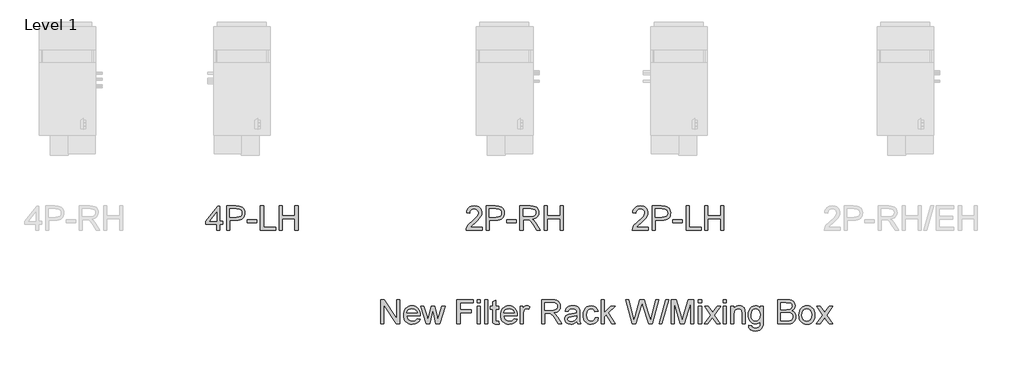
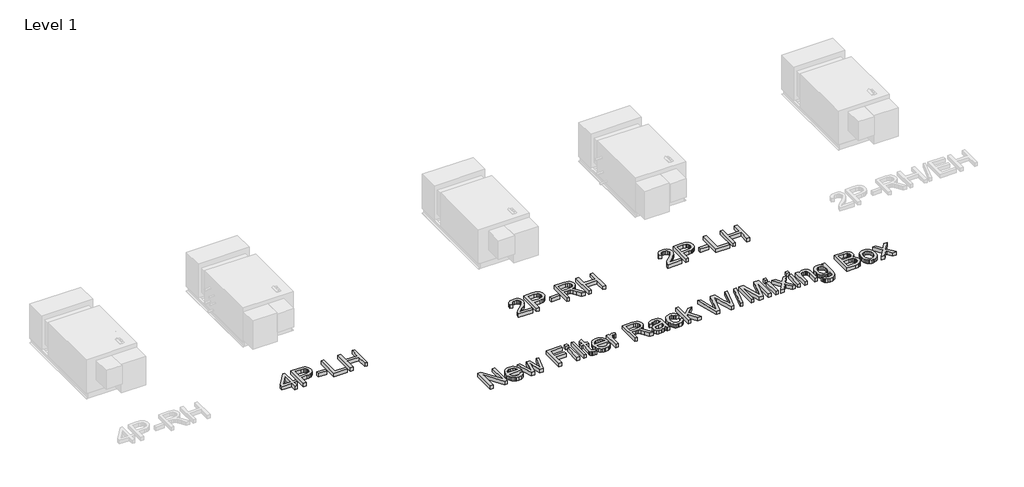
# One storey, part 2 of 3: 4 proxies.
"""IFC4 building model written with IfcOpenShell, lengths in millimetres."""

from ifc_helpers import new_model, si_unit, frame, origin, place, context, project, spatial, polyline, outline, extrude, element, save

model = new_model("IFC4")

# Units and contexts
model_context = context("Model", 3, world=origin())
ifc_project = project(units=[si_unit("LENGTHUNIT", "METRE", prefix="MILLI")], contexts=[model_context])

# Site, building, storey
site = spatial("IfcSite", under=ifc_project)
building = spatial("IfcBuilding", under=site)
storey = spatial("IfcBuildingStorey", under=building, Name="Level 1", Elevation=0.0)

# Proxies
placement = place(None, origin())
element("IfcBuildingElementProxy", 1, Name="24\" Arial", ObjectType="24\" Arial", at=placement, inside=storey, context=model_context, shape_type="SweptSolid", body=[
    extrude(outline(polyline([(-33894.5636613, -12900.1785739), (-33894.5636613, -12938.2494606), (-34094.4358167, -12938.2494606), (-34090.3461707, -12912.0013688), (-34080.9585741, -12891.488076), (-34067.2210813, -12871.5882302), (-34047.3491194, -12850.7589194), (-34019.5581156, -12827.4572316), (-33978.4757622, -12790.9664353), (-33953.8263502, -12764.0305394), (-33941.5016442, -12742.1695224), (-33937.3934089, -12720.903363), (-33941.2692779, -12701.8400357), (-33952.8968852, -12685.9926573), (-33970.7704973, -12675.3131043), (-33993.384381, -12671.7532533), (-34017.132212, -12675.2294525), (-34035.5820924, -12685.6580499), (-34047.4885391, -12702.2211163), (-34051.6060691, -12724.1007226), (-34089.6769559, -12719.3418618), (-34086.4029154, -12699.6883242), (-34080.4473684, -12682.5164581), (-34071.8103148, -12667.8262637), (-34060.4917546, -12655.6177408), (-34046.7519381, -12646.0210146), (-34030.8511155, -12639.1662101), (-33992.5664518, -12633.6823666), (-33972.1623712, -12635.2066892), (-33954.0029486, -12639.779657), (-33938.0881839, -12647.4012701), (-33924.4180773, -12658.0715284), (-33913.4387719, -12671.0003867), (-33905.5964109, -12685.3977997), (-33900.8909943, -12701.2637674), (-33899.3225221, -12718.5982898), (-33901.0141484, -12736.8065093), (-33906.0890274, -12754.6987107), (-33915.0955433, -12772.8976356), (-33928.5820806, -12792.0260255), (-33950.0806062, -12814.8629807), (-33983.1230873, -12844.1876018), (-34026.9194785, -12880.8085231), (-34044.0959919, -12900.1785739), (-33894.5636613, -12900.1785739)])), frame((0.0, 0.0, -529.6157415), z_axis=(0.0, 0.0, 1.0), x_axis=(1.0, 0.0, 0.0)), (0.0, 0.0, 1.0), 50.8),
    extrude(outline(polyline([(-33842.216192, -12938.2494606), (-33842.216192, -12633.6823666), (-33729.3419613, -12633.6823666), (-33683.8353545, -12636.5822974), (-33663.5451333, -12642.0010784), (-33646.8426471, -12650.8217013), (-33633.3932884, -12663.4438361), (-33622.8624499, -12680.2671528), (-33616.058766, -12700.1112307), (-33613.7908714, -12721.7956494), (-33615.322165, -12740.491838), (-33619.9160458, -12757.691588), (-33627.5725138, -12773.3948994), (-33638.291569, -12787.601772), (-33653.0073238, -12799.3780937), (-33672.6538904, -12807.789752), (-33697.2312689, -12812.836747), (-33726.7394593, -12814.5190787), (-33804.1453052, -12814.5190787), (-33804.1453052, -12938.2494606), (-33842.216192, -12938.2494606)]), holes=[polyline([(-33804.1453052, -12776.4481919), (-33724.5087433, -12776.4481919), (-33690.7505741, -12772.9534035), (-33668.4434139, -12762.4690382), (-33656.0071721, -12745.6457215), (-33651.8617582, -12723.134079), (-33654.3062511, -12706.0319228), (-33661.6397301, -12691.6066259), (-33672.9513192, -12680.7504746), (-33687.3301429, -12674.3557554), (-33725.4010297, -12671.7532533), (-33804.1453052, -12671.7532533), (-33804.1453052, -12776.4481919)])]), frame((0.0, 0.0, -529.6157415), z_axis=(0.0, 0.0, 1.0), x_axis=(1.0, 0.0, 0.0)), (0.0, 0.0, 1.0), 50.8),
    extrude(outline(polyline([(-33585.2377063, -12847.8311046), (-33585.2377063, -12809.7602178), (-33466.2661852, -12809.7602178), (-33466.2661852, -12847.8311046), (-33585.2377063, -12847.8311046)])), frame((0.0, 0.0, -529.6157415), z_axis=(0.0, 0.0, 1.0), x_axis=(1.0, 0.0, 0.0)), (0.0, 0.0, 1.0), 50.8),
    extrude(outline(polyline([(-33418.6775768, -12938.2494606), (-33418.6775768, -12633.6823666), (-33380.60669, -12633.6823666), (-33380.60669, -12900.1785739), (-33228.323143, -12900.1785739), (-33228.323143, -12938.2494606), (-33418.6775768, -12938.2494606)])), frame((0.0, 0.0, -529.6157415), z_axis=(0.0, 0.0, 1.0), x_axis=(1.0, 0.0, 0.0)), (0.0, 0.0, 1.0), 50.8),
    extrude(outline(polyline([(-33185.4933954, -12938.2494606), (-33185.4933954, -12633.6823666), (-33147.4225086, -12633.6823666), (-33147.4225086, -12757.4127485), (-32985.6212399, -12757.4127485), (-32985.6212399, -12633.6823666), (-32947.5503531, -12633.6823666), (-32947.5503531, -12938.2494606), (-32985.6212399, -12938.2494606), (-32985.6212399, -12795.4836353), (-33147.4225086, -12795.4836353), (-33147.4225086, -12938.2494606), (-33185.4933954, -12938.2494606)])), frame((0.0, 0.0, -529.6157415), z_axis=(0.0, 0.0, 1.0), x_axis=(1.0, 0.0, 0.0)), (0.0, 0.0, 1.0), 50.8),
])
element("IfcBuildingElementProxy", 2, Name="24\" Arial", ObjectType="24\" Arial", at=placement, inside=storey, context=model_context, shape_type="SweptSolid", body=[
    extrude(outline(polyline([(-35980.5537824, -12900.1785739), (-35980.5537824, -12938.2494606), (-36180.4259379, -12938.2494606), (-36176.3362918, -12912.0013688), (-36166.9486952, -12891.488076), (-36153.2112024, -12871.5882302), (-36133.3392405, -12850.7589194), (-36105.5482368, -12827.4572316), (-36064.4658834, -12790.9664353), (-36039.8164713, -12764.0305394), (-36027.4917653, -12742.1695224), (-36023.38353, -12720.903363), (-36027.2593991, -12701.8400357), (-36038.8870063, -12685.9926573), (-36056.7606185, -12675.3131043), (-36079.3745021, -12671.7532533), (-36103.1223331, -12675.2294525), (-36121.5722135, -12685.6580499), (-36133.4786603, -12702.2211163), (-36137.5961903, -12724.1007226), (-36175.667077, -12719.3418618), (-36172.3930365, -12699.6883242), (-36166.4374895, -12682.5164581), (-36157.8004359, -12667.8262637), (-36146.4818758, -12655.6177408), (-36132.7420593, -12646.0210146), (-36116.8412366, -12639.1662101), (-36078.5565729, -12633.6823666), (-36058.1524923, -12635.2066892), (-36039.9930697, -12639.779657), (-36024.0783051, -12647.4012701), (-36010.4081985, -12658.0715284), (-35999.4288931, -12671.0003867), (-35991.586532, -12685.3977997), (-35986.8811154, -12701.2637674), (-35985.3126432, -12718.5982898), (-35987.0042695, -12736.8065093), (-35992.0791485, -12754.6987107), (-36001.0856644, -12772.8976356), (-36014.5722017, -12792.0260255), (-36036.0707274, -12814.8629807), (-36069.1132084, -12844.1876018), (-36112.9095996, -12880.8085231), (-36130.086113, -12900.1785739), (-35980.5537824, -12900.1785739)])), frame((0.0, 0.0, -529.6157415), z_axis=(0.0, 0.0, 1.0), x_axis=(1.0, 0.0, 0.0)), (0.0, 0.0, 1.0), 50.8),
    extrude(outline(polyline([(-35928.2063131, -12938.2494606), (-35928.2063131, -12633.6823666), (-35815.3320824, -12633.6823666), (-35769.8254756, -12636.5822974), (-35749.5352545, -12642.0010784), (-35732.8327683, -12650.8217013), (-35719.3834096, -12663.4438361), (-35708.852571, -12680.2671528), (-35702.0488872, -12700.1112307), (-35699.7809925, -12721.7956494), (-35701.3122861, -12740.491838), (-35705.906167, -12757.691588), (-35713.562635, -12773.3948994), (-35724.2816902, -12787.601772), (-35738.9974449, -12799.3780937), (-35758.6440115, -12807.789752), (-35783.22139, -12812.836747), (-35812.7295804, -12814.5190787), (-35890.1354263, -12814.5190787), (-35890.1354263, -12938.2494606), (-35928.2063131, -12938.2494606)]), holes=[polyline([(-35890.1354263, -12776.4481919), (-35810.4988644, -12776.4481919), (-35776.7406953, -12772.9534035), (-35754.4335351, -12762.4690382), (-35741.9972932, -12745.6457215), (-35737.8518793, -12723.134079), (-35740.2963723, -12706.0319228), (-35747.6298512, -12691.6066259), (-35758.9414404, -12680.7504746), (-35773.320264, -12674.3557554), (-35811.3911508, -12671.7532533), (-35890.1354263, -12671.7532533), (-35890.1354263, -12776.4481919)])]), frame((0.0, 0.0, -529.6157415), z_axis=(0.0, 0.0, 1.0), x_axis=(1.0, 0.0, 0.0)), (0.0, 0.0, 1.0), 50.8),
    extrude(outline(polyline([(-35671.2278275, -12847.8311046), (-35671.2278275, -12809.7602178), (-35552.2563064, -12809.7602178), (-35552.2563064, -12847.8311046), (-35671.2278275, -12847.8311046)])), frame((0.0, 0.0, -529.6157415), z_axis=(0.0, 0.0, 1.0), x_axis=(1.0, 0.0, 0.0)), (0.0, 0.0, 1.0), 50.8),
    extrude(outline(polyline([(-35504.6676979, -12938.2494606), (-35504.6676979, -12633.6823666), (-35373.4272387, -12633.6823666), (-35338.1540416, -12635.7364842), (-35312.4915127, -12641.8988372), (-35293.7349088, -12653.275489), (-35279.1794868, -12670.9725027), (-35269.8383634, -12692.9171716), (-35266.7246557, -12717.0367886), (-35271.8831865, -12747.039919), (-35287.3587789, -12771.9124027), (-35299.0816563, -12782.0482186), (-35313.6161654, -12790.1485061), (-35351.1200785, -12800.2424961), (-35329.4821331, -12816.5267231), (-35298.6238948, -12855.7129679), (-35247.8379267, -12938.2494606), (-35292.0804611, -12938.2494606), (-35331.7128491, -12875.1201972), (-35360.3403713, -12833.3314504), (-35380.4539941, -12813.5896137), (-35398.5599725, -12806.3397866), (-35420.6440611, -12805.001357), (-35466.5968111, -12805.001357), (-35466.5968111, -12938.2494606), (-35504.6676979, -12938.2494606)]), holes=[polyline([(-35466.5968111, -12766.9304702), (-35381.3834591, -12766.9304702), (-35356.9106455, -12765.582746), (-35337.9216753, -12761.5395732), (-35323.6265035, -12754.531407), (-35313.2350847, -12744.2887026), (-35306.905428, -12731.898934), (-35304.7955424, -12718.4495754), (-35308.8201259, -12699.8788645), (-35320.8938764, -12684.9144779), (-35341.6674193, -12675.0435595), (-35371.7913803, -12671.7532533), (-35466.5968111, -12671.7532533), (-35466.5968111, -12766.9304702)])]), frame((0.0, 0.0, -529.6157415), z_axis=(0.0, 0.0, 1.0), x_axis=(1.0, 0.0, 0.0)), (0.0, 0.0, 1.0), 50.8),
    extrude(outline(polyline([(-35200.1006038, -12938.2494606), (-35200.1006038, -12633.6823666), (-35162.0297171, -12633.6823666), (-35162.0297171, -12757.4127485), (-35000.2284484, -12757.4127485), (-35000.2284484, -12633.6823666), (-34962.1575616, -12633.6823666), (-34962.1575616, -12938.2494606), (-35000.2284484, -12938.2494606), (-35000.2284484, -12795.4836353), (-35162.0297171, -12795.4836353), (-35162.0297171, -12938.2494606), (-35200.1006038, -12938.2494606)])), frame((0.0, 0.0, -529.6157415), z_axis=(0.0, 0.0, 1.0), x_axis=(1.0, 0.0, 0.0)), (0.0, 0.0, 1.0), 50.8),
])
element("IfcBuildingElementProxy", 3, Name="24\" Arial", ObjectType="24\" Arial", at=placement, inside=storey, context=model_context, shape_type="SweptSolid", body=[
    extrude(outline(polyline([(-39309.3056134, -12938.2494606), (-39309.3056134, -12866.866548), (-39447.3125779, -12866.866548), (-39447.3125779, -12828.7956612), (-39299.7878917, -12638.4412274), (-39271.2347266, -12638.4412274), (-39271.2347266, -12828.7956612), (-39233.1638398, -12828.7956612), (-39233.1638398, -12866.866548), (-39271.2347266, -12866.866548), (-39271.2347266, -12938.2494606), (-39309.3056134, -12938.2494606)]), holes=[polyline([(-39309.3056134, -12828.7956612), (-39309.3056134, -12711.1625697), (-39400.4675414, -12828.7956612), (-39309.3056134, -12828.7956612)])]), frame((0.0, 0.0, -501.65), z_axis=(0.0, 0.0, 1.0), x_axis=(1.0, 0.0, 0.0)), (0.0, 0.0, 1.0), 50.8),
    extrude(outline(polyline([(-39185.5752314, -12938.2494606), (-39185.5752314, -12633.6823666), (-39072.7010007, -12633.6823666), (-39027.1943939, -12636.5822974), (-39006.9041728, -12642.0010784), (-38990.2016866, -12650.8217013), (-38976.7523279, -12663.4438361), (-38966.2214893, -12680.2671528), (-38959.4178055, -12700.1112307), (-38957.1499108, -12721.7956494), (-38958.6812044, -12740.491838), (-38963.2750853, -12757.691588), (-38970.9315533, -12773.3948994), (-38981.6506085, -12787.601772), (-38996.3663632, -12799.3780937), (-39016.0129298, -12807.789752), (-39040.5903083, -12812.836747), (-39070.0984987, -12814.5190787), (-39147.5043446, -12814.5190787), (-39147.5043446, -12938.2494606), (-39185.5752314, -12938.2494606)]), holes=[polyline([(-39147.5043446, -12776.4481919), (-39067.8677827, -12776.4481919), (-39034.1096136, -12772.9534035), (-39011.8024534, -12762.4690382), (-38999.3662115, -12745.6457215), (-38995.2207976, -12723.134079), (-38997.6652906, -12706.0319228), (-39004.9987695, -12691.6066259), (-39016.3103587, -12680.7504746), (-39030.6891823, -12674.3557554), (-39068.7600691, -12671.7532533), (-39147.5043446, -12671.7532533), (-39147.5043446, -12776.4481919)])]), frame((0.0, 0.0, -501.65), z_axis=(0.0, 0.0, 1.0), x_axis=(1.0, 0.0, 0.0)), (0.0, 0.0, 1.0), 50.8),
    extrude(outline(polyline([(-38928.5967458, -12847.8311046), (-38928.5967458, -12809.7602178), (-38809.6252247, -12809.7602178), (-38809.6252247, -12847.8311046), (-38928.5967458, -12847.8311046)])), frame((0.0, 0.0, -501.65), z_axis=(0.0, 0.0, 1.0), x_axis=(1.0, 0.0, 0.0)), (0.0, 0.0, 1.0), 50.8),
    extrude(outline(polyline([(-38762.0366162, -12938.2494606), (-38762.0366162, -12633.6823666), (-38723.9657294, -12633.6823666), (-38723.9657294, -12900.1785739), (-38571.6821824, -12900.1785739), (-38571.6821824, -12938.2494606), (-38762.0366162, -12938.2494606)])), frame((0.0, 0.0, -501.65), z_axis=(0.0, 0.0, 1.0), x_axis=(1.0, 0.0, 0.0)), (0.0, 0.0, 1.0), 50.8),
    extrude(outline(polyline([(-38528.8524348, -12938.2494606), (-38528.8524348, -12633.6823666), (-38490.7815481, -12633.6823666), (-38490.7815481, -12757.4127485), (-38328.9802793, -12757.4127485), (-38328.9802793, -12633.6823666), (-38290.9093926, -12633.6823666), (-38290.9093926, -12938.2494606), (-38328.9802793, -12938.2494606), (-38328.9802793, -12795.4836353), (-38490.7815481, -12795.4836353), (-38490.7815481, -12938.2494606), (-38528.8524348, -12938.2494606)])), frame((0.0, 0.0, -501.65), z_axis=(0.0, 0.0, 1.0), x_axis=(1.0, 0.0, 0.0)), (0.0, 0.0, 1.0), 50.8),
])
element("IfcBuildingElementProxy", 4, Name="24\" Arial", ObjectType="24\" Arial", at=placement, inside=storey, context=model_context, shape_type="SweptSolid", body=[
    extrude(outline(polyline([(-37251.8204583, -14115.8222873), (-37251.8204583, -13811.2551933), (-37211.0727123, -13811.2551933), (-37051.9483028, -14052.5443095), (-37051.9483028, -13811.2551933), (-37013.877416, -13811.2551933), (-37013.877416, -14115.8222873), (-37054.625162, -14115.8222873), (-37213.7495715, -13874.4588139), (-37213.7495715, -14115.8222873), (-37251.8204583, -14115.8222873)])), frame((0.0, 0.0, -501.65), z_axis=(0.0, 0.0, 1.0), x_axis=(1.0, 0.0, 0.0)), (0.0, 0.0, 1.0), 50.8),
    extrude(outline(polyline([(-36795.4159604, -14049.1982355), (-36758.0886456, -14053.9570964), (-36771.5380043, -14082.0827075), (-36792.9993514, -14103.107206), (-36821.989365, -14116.2126626), (-36858.0247234, -14120.5811482), (-36881.6470766, -14118.6966579), (-36902.6948117, -14113.043187), (-36921.1679287, -14103.6207354), (-36937.0664277, -14090.4293033), (-36949.8512189, -14073.8360292), (-36958.9832126, -14054.2080519), (-36964.4624088, -14031.5453713), (-36966.2888076, -14005.8479875), (-36964.4438195, -13979.2792302), (-36958.9088554, -13955.8613593), (-36949.6839152, -13935.5943748), (-36936.7689989, -13918.4782767), (-36920.9123259, -13904.8802036), (-36902.8621154, -13895.1672943), (-36882.6183675, -13889.3395487), (-36860.1810822, -13887.3969668), (-36838.4664559, -13889.3349013), (-36818.829184, -13895.148705), (-36801.2692663, -13904.8383777), (-36785.7867029, -13918.4039195), (-36773.1483024, -13935.482839), (-36764.1208735, -13955.7126449), (-36758.7044162, -13979.0933372), (-36756.8989304, -14005.6249159), (-36757.122002, -14015.8862096), (-36928.2179208, -14015.8862096), (-36921.6280139, -14044.3836068), (-36906.3197252, -14065.3337481), (-36884.226342, -14078.2161331), (-36857.2811514, -14082.5102614), (-36837.0188142, -14080.5212063), (-36819.9538366, -14074.554041), (-36806.0862187, -14064.2369794), (-36795.4159604, -14049.1982355)]), holes=[polyline([(-36928.2179208, -13977.8153228), (-36794.9698172, -13977.8153228), (-36800.1190533, -13957.7017001), (-36810.2130433, -13943.3135817), (-36832.4086677, -13929.9292856), (-36860.3297966, -13925.4678535), (-36885.9923255, -13929.0277045), (-36907.2120116, -13939.7072575), (-36921.9626213, -13956.3539758), (-36928.2179208, -13977.8153228)])]), frame((0.0, 0.0, -501.65), z_axis=(0.0, 0.0, 1.0), x_axis=(1.0, 0.0, 0.0)), (0.0, 0.0, 1.0), 50.8),
    extrude(outline(polyline([(-36681.7238005, -14115.8222873), (-36749.7606391, -13892.1558276), (-36710.2026084, -13892.1558276), (-36671.6112212, -14022.6527149), (-36660.0858551, -14069.2746797), (-36650.6424906, -14024.3629305), (-36619.9329667, -13892.1558276), (-36574.5750743, -13892.1558276), (-36544.0142648, -14023.9911445), (-36535.6119011, -14064.6645333), (-36523.5660346, -14021.7604285), (-36484.9002903, -13892.1558276), (-36445.1935451, -13892.1558276), (-36513.7508841, -14115.8222873), (-36559.7779914, -14115.8222873), (-36589.0003712, -13984.6561853), (-36597.4770921, -13943.7597249), (-36635.1761929, -14115.8222873), (-36681.7238005, -14115.8222873)])), frame((0.0, 0.0, -501.65), z_axis=(0.0, 0.0, 1.0), x_axis=(1.0, 0.0, 0.0)), (0.0, 0.0, 1.0), 50.8),
    extrude(outline(polyline([(-36295.2894285, -14115.8222873), (-36295.2894285, -13811.2551933), (-36090.6584121, -13811.2551933), (-36090.6584121, -13849.32608), (-36257.2185417, -13849.32608), (-36257.2185417, -13939.7444361), (-36114.4527164, -13939.7444361), (-36114.4527164, -13977.8153228), (-36257.2185417, -13977.8153228), (-36257.2185417, -14115.8222873), (-36295.2894285, -14115.8222873)])), frame((0.0, 0.0, -501.65), z_axis=(0.0, 0.0, 1.0), x_axis=(1.0, 0.0, 0.0)), (0.0, 0.0, 1.0), 50.8),
    extrude(outline(polyline([(-36043.0698037, -13849.32608), (-36043.0698037, -13811.2551933), (-36004.9989169, -13811.2551933), (-36004.9989169, -13849.32608), (-36043.0698037, -13849.32608)])), frame((0.0, 0.0, -501.65), z_axis=(0.0, 0.0, 1.0), x_axis=(1.0, 0.0, 0.0)), (0.0, 0.0, 1.0), 50.8),
    extrude(outline(polyline([(-36043.0698037, -14115.8222873), (-36043.0698037, -13892.1558276), (-36004.9989169, -13892.1558276), (-36004.9989169, -14115.8222873), (-36043.0698037, -14115.8222873)])), frame((0.0, 0.0, -501.65), z_axis=(0.0, 0.0, 1.0), x_axis=(1.0, 0.0, 0.0)), (0.0, 0.0, 1.0), 50.8),
    extrude(outline(polyline([(-35947.8925868, -14115.8222873), (-35947.8925868, -13811.2551933), (-35909.8217, -13811.2551933), (-35909.8217, -14115.8222873), (-35947.8925868, -14115.8222873)])), frame((0.0, 0.0, -501.65), z_axis=(0.0, 0.0, 1.0), x_axis=(1.0, 0.0, 0.0)), (0.0, 0.0, 1.0), 50.8),
    extrude(outline(polyline([(-35771.8147355, -14084.0717626), (-35767.0558747, -14116.9376453), (-35795.5346826, -14120.5811482), (-35813.8079646, -14119.0010577), (-35827.4339217, -14114.2607861), (-35837.0631792, -14106.9551912), (-35843.3463626, -14097.6791304), (-35846.8039724, -14081.7481001), (-35847.9565091, -14054.4775968), (-35847.9565091, -13930.2267144), (-35876.5096741, -13930.2267144), (-35876.5096741, -13892.1558276), (-35847.9565091, -13892.1558276), (-35847.9565091, -13837.8007139), (-35809.8856223, -13815.4191965), (-35809.8856223, -13892.1558276), (-35771.8147355, -13892.1558276), (-35771.8147355, -13930.2267144), (-35809.8856223, -13930.2267144), (-35809.8856223, -14053.3622388), (-35807.8779779, -14072.9925397), (-35801.3717228, -14079.944938), (-35788.3963913, -14082.5102614), (-35771.8147355, -14084.0717626)])), frame((0.0, 0.0, -501.65), z_axis=(0.0, 0.0, 1.0), x_axis=(1.0, 0.0, 0.0)), (0.0, 0.0, 1.0), 50.8),
    extrude(outline(polyline([(-35577.1475841, -14049.1982355), (-35539.8202694, -14053.9570964), (-35553.269628, -14082.0827075), (-35574.7309751, -14103.107206), (-35603.7209887, -14116.2126626), (-35639.7563471, -14120.5811482), (-35663.3787003, -14118.6966579), (-35684.4264354, -14113.043187), (-35702.8995525, -14103.6207354), (-35718.7980514, -14090.4293033), (-35731.5828426, -14073.8360292), (-35740.7148363, -14054.2080519), (-35746.1940326, -14031.5453713), (-35748.0204313, -14005.8479875), (-35746.1754433, -13979.2792302), (-35740.6404791, -13955.8613593), (-35731.4155389, -13935.5943748), (-35718.5006226, -13918.4782767), (-35702.6439496, -13904.8802036), (-35684.5937391, -13895.1672943), (-35664.3499912, -13889.3395487), (-35641.9127059, -13887.3969668), (-35620.1980796, -13889.3349013), (-35600.5608077, -13895.148705), (-35583.00089, -13904.8383777), (-35567.5183266, -13918.4039195), (-35554.8799262, -13935.482839), (-35545.8524973, -13955.7126449), (-35540.4360399, -13979.0933372), (-35538.6305541, -14005.6249159), (-35538.8536257, -14015.8862096), (-35709.9495446, -14015.8862096), (-35703.3596376, -14044.3836068), (-35688.051349, -14065.3337481), (-35665.9579657, -14078.2161331), (-35639.0127751, -14082.5102614), (-35618.7504379, -14080.5212063), (-35601.6854603, -14074.554041), (-35587.8178424, -14064.2369794), (-35577.1475841, -14049.1982355)]), holes=[polyline([(-35709.9495446, -13977.8153228), (-35576.7014409, -13977.8153228), (-35581.8506771, -13957.7017001), (-35591.944667, -13943.3135817), (-35614.1402915, -13929.9292856), (-35642.0614203, -13925.4678535), (-35667.7239492, -13929.0277045), (-35688.9436354, -13939.7072575), (-35703.694245, -13956.3539758), (-35709.9495446, -13977.8153228)])]), frame((0.0, 0.0, -501.65), z_axis=(0.0, 0.0, 1.0), x_axis=(1.0, 0.0, 0.0)), (0.0, 0.0, 1.0), 50.8),
    extrude(outline(polyline([(-35500.5596674, -14115.8222873), (-35500.5596674, -13892.1558276), (-35467.2476415, -13892.1558276), (-35467.2476415, -13925.2447819), (-35454.9415248, -13906.0606242), (-35443.6020516, -13894.7583297), (-35432.2253999, -13889.2373075), (-35419.8077474, -13887.3969668), (-35400.8466612, -13890.3340762), (-35381.5881463, -13899.1454045), (-35394.3032276, -13933.2753596), (-35407.6875237, -13927.4197301), (-35421.0718198, -13925.4678535), (-35432.4391769, -13927.3453729), (-35442.5982294, -13932.9779308), (-35450.8054055, -13941.9379735), (-35456.317133, -13953.797947), (-35460.9458687, -13975.0641064), (-35462.4887806, -13998.263553), (-35462.4887806, -14115.8222873), (-35500.5596674, -14115.8222873)])), frame((0.0, 0.0, -501.65), z_axis=(0.0, 0.0, 1.0), x_axis=(1.0, 0.0, 0.0)), (0.0, 0.0, 1.0), 50.8),
    extrude(outline(polyline([(-35234.0634601, -14115.8222873), (-35234.0634601, -13811.2551933), (-35102.8230008, -13811.2551933), (-35067.5498038, -13813.3093109), (-35041.8872749, -13819.4716639), (-35023.130671, -13830.8483157), (-35008.575249, -13848.5453294), (-34999.2341256, -13870.4899983), (-34996.1204178, -13894.6096153), (-35001.2789486, -13924.6127457), (-35016.754541, -13949.4852294), (-35028.4774185, -13959.6210453), (-35043.0119275, -13967.7213328), (-35080.5158406, -13977.8153228), (-35058.8778952, -13994.0995498), (-35028.0196569, -14033.2857946), (-34977.2336889, -14115.8222873), (-35021.4762233, -14115.8222873), (-35061.1086112, -14052.6930239), (-35089.7361335, -14010.9042772), (-35109.8497563, -13991.1624404), (-35127.9557347, -13983.9126133), (-35150.0398233, -13982.5741837), (-35195.9925733, -13982.5741837), (-35195.9925733, -14115.8222873), (-35234.0634601, -14115.8222873)]), holes=[polyline([(-35195.9925733, -13944.5032969), (-35110.7792213, -13944.5032969), (-35086.3064076, -13943.1555727), (-35067.3174375, -13939.1123999), (-35053.0222657, -13932.1042337), (-35042.6308469, -13921.8615293), (-35036.3011902, -13909.4717607), (-35034.1913046, -13896.0224021), (-35038.2158881, -13877.4516912), (-35050.2896385, -13862.4873046), (-35071.0631815, -13852.6163862), (-35101.1871424, -13849.32608), (-35195.9925733, -13849.32608), (-35195.9925733, -13944.5032969)])]), frame((0.0, 0.0, -501.65), z_axis=(0.0, 0.0, 1.0), x_axis=(1.0, 0.0, 0.0)), (0.0, 0.0, 1.0), 50.8),
    extrude(outline(polyline([(-34791.4894015, -14087.2691223), (-34809.6790317, -14102.8655451), (-34828.4077517, -14113.0710709), (-34848.1031152, -14118.7036289), (-34869.1926762, -14120.5811482), (-34901.0082635, -14116.0639482), (-34924.477255, -14102.5123484), (-34938.9490251, -14081.9339931), (-34943.7729485, -14056.3365268), (-34941.9511971, -14040.5542109), (-34936.4859429, -14026.2218605), (-34928.0556952, -14013.9529224), (-34917.3389637, -14004.3608435), (-34890.6819072, -13991.8688338), (-34857.7416673, -13986.1433293), (-34818.8156728, -13980.1203961), (-34791.7124731, -13973.056462), (-34791.4894015, -13964.5797411), (-34794.1104928, -13947.5891208), (-34801.9737668, -13936.4727193), (-34819.5592448, -13928.21907), (-34844.0599424, -13925.4678535), (-34866.7388886, -13927.2988996), (-34882.5769724, -13932.7920378), (-34893.3773558, -13942.9510904), (-34900.9432009, -13958.7798795), (-34939.0140877, -13954.0210186), (-34932.4055915, -13933.2010024), (-34922.5439677, -13916.8424183), (-34908.5090461, -13904.3318192), (-34889.3806562, -13895.0557585), (-34865.986022, -13889.3116647), (-34839.1523672, -13887.3969668), (-34813.4154811, -13889.0885931), (-34793.0137241, -13894.1634721), (-34777.6310782, -13901.7943798), (-34766.9515253, -13911.1540924), (-34759.8690019, -13922.7259318), (-34755.2774448, -13936.9932197), (-34753.4185147, -13970.3052456), (-34753.4185147, -14017.6707824), (-34751.4852275, -14083.8115124), (-34743.9007931, -14115.8222873), (-34781.9716798, -14115.8222873), (-34788.0689703, -14102.5867056), (-34791.4894015, -14087.2691223)]), holes=[polyline([(-34791.4894015, -14011.1273488), (-34852.9084493, -14022.8014293), (-34885.6627962, -14028.9730769), (-34900.4970577, -14039.011299), (-34905.7020618, -14053.6596676), (-34902.8671935, -14064.9805514), (-34894.3625887, -14074.2566121), (-34880.3741403, -14080.4468491), (-34861.0877414, -14082.5102614), (-34840.6395112, -14080.2330722), (-34822.5707114, -14073.4015043), (-34807.9223429, -14063.3353983), (-34797.7354064, -14051.3545943), (-34793.2182064, -14039.011299), (-34791.7124731, -14021.9091429), (-34791.4894015, -14011.1273488)])]), frame((0.0, 0.0, -501.65), z_axis=(0.0, 0.0, 1.0), x_axis=(1.0, 0.0, 0.0)), (0.0, 0.0, 1.0), 50.8),
    extrude(outline(polyline([(-34558.3052201, -14034.921653), (-34520.2343334, -14039.6805138), (-34530.8488238, -14073.5409241), (-34550.7951428, -14099.1290958), (-34578.1957713, -14115.2181351), (-34611.1731898, -14120.5811482), (-34632.5253247, -14118.7105999), (-34651.6699802, -14113.0989549), (-34668.6071564, -14103.7462132), (-34683.3368531, -14090.6523749), (-34695.2595655, -14074.0637482), (-34703.7757886, -14054.2266412), (-34708.8855225, -14031.1410541), (-34710.5887671, -14004.8069867), (-34707.6795417, -13970.9279871), (-34698.9518652, -13941.5661875), (-34684.2663181, -13917.8555351), (-34663.4834805, -13900.9299773), (-34638.6202915, -13890.7802194), (-34611.6936902, -13887.3969668), (-34579.5249063, -13892.0442918), (-34553.8066095, -13905.986267), (-34535.356729, -13928.4793202), (-34524.9931942, -13958.7798795), (-34563.064081, -13963.5387403), (-34569.970006, -13946.9292006), (-34580.7239161, -13935.0227538), (-34594.7309538, -13927.8565786), (-34611.3962614, -13925.4678535), (-34635.9992002, -13930.1709465), (-34655.52726, -13944.2802253), (-34668.2702253, -13968.5578514), (-34672.5178804, -14003.7659859), (-34668.3631718, -14039.4481476), (-34655.899046, -14063.8094254), (-34636.7241829, -14077.8350524), (-34612.4372622, -14082.5102614), (-34592.7233094, -14079.5917413), (-34576.5599129, -14070.8361809), (-34564.8021805, -14056.0205087), (-34558.3052201, -14034.921653)])), frame((0.0, 0.0, -501.65), z_axis=(0.0, 0.0, 1.0), x_axis=(1.0, 0.0, 0.0)), (0.0, 0.0, 1.0), 50.8),
    extrude(outline(polyline([(-34486.9223074, -14115.8222873), (-34486.9223074, -13811.2551933), (-34448.8514207, -13811.2551933), (-34448.8514207, -13974.915392), (-34363.4893543, -13892.1558276), (-34310.8444562, -13892.1558276), (-34397.2475234, -13975.9563928), (-34306.0855953, -14115.8222873), (-34350.5512014, -14115.8222873), (-34424.5366161, -14002.4275563), (-34448.8514207, -14025.9987889), (-34448.8514207, -14115.8222873), (-34486.9223074, -14115.8222873)])), frame((0.0, 0.0, -501.65), z_axis=(0.0, 0.0, 1.0), x_axis=(1.0, 0.0, 0.0)), (0.0, 0.0, 1.0), 50.8),
    extrude(outline(polyline([(-34094.5393593, -14115.8222873), (-34177.5963525, -13811.2551933), (-34138.3357506, -13811.2551933), (-34090.1522845, -14011.4247776), (-34075.2808444, -14073.2156113), (-34059.3684034, -14018.5630688), (-33998.9903564, -13811.2551933), (-33942.4045267, -13811.2551933), (-33898.5337783, -13961.5310959), (-33879.7399958, -14017.2989964), (-33865.8909672, -14073.2156113), (-33851.4656703, -14013.2093504), (-33802.836061, -13811.2551933), (-33763.575459, -13811.2551933), (-33846.7068094, -14115.8222873), (-33887.3801982, -14115.8222873), (-33960.3989693, -13880.8535331), (-33970.5859058, -13848.0620076), (-33982.0369147, -13887.5456812), (-34048.5866093, -14115.8222873), (-34094.5393593, -14115.8222873)])), frame((0.0, 0.0, -501.65), z_axis=(0.0, 0.0, 1.0), x_axis=(1.0, 0.0, 0.0)), (0.0, 0.0, 1.0), 50.8),
    extrude(outline(polyline([(-33758.8165982, -14115.8222873), (-33673.157103, -13811.2551933), (-33638.8040763, -13811.2551933), (-33724.4635715, -14115.8222873), (-33758.8165982, -14115.8222873)])), frame((0.0, 0.0, -501.65), z_axis=(0.0, 0.0, 1.0), x_axis=(1.0, 0.0, 0.0)), (0.0, 0.0, 1.0), 50.8),
    extrude(outline(polyline([(-33606.5330511, -14115.8222873), (-33606.5330511, -13811.2551933), (-33541.0243573, -13811.2551933), (-33478.7130231, -14025.9244317), (-33466.1466562, -14070.7618237), (-33452.5392885, -14022.2065717), (-33391.2689551, -13811.2551933), (-33325.7602613, -13811.2551933), (-33325.7602613, -14115.8222873), (-33363.8311481, -14115.8222873), (-33363.8311481, -13849.32608), (-33440.3447076, -14115.8222873), (-33491.9486049, -14115.8222873), (-33568.4621644, -13849.32608), (-33568.4621644, -14115.8222873), (-33606.5330511, -14115.8222873)])), frame((0.0, 0.0, -501.65), z_axis=(0.0, 0.0, 1.0), x_axis=(1.0, 0.0, 0.0)), (0.0, 0.0, 1.0), 50.8),
    extrude(outline(polyline([(-33263.8950703, -13849.32608), (-33263.8950703, -13811.2551933), (-33225.8241836, -13811.2551933), (-33225.8241836, -13849.32608), (-33263.8950703, -13849.32608)])), frame((0.0, 0.0, -501.65), z_axis=(0.0, 0.0, 1.0), x_axis=(1.0, 0.0, 0.0)), (0.0, 0.0, 1.0), 50.8),
    extrude(outline(polyline([(-33263.8950703, -14115.8222873), (-33263.8950703, -13892.1558276), (-33225.8241836, -13892.1558276), (-33225.8241836, -14115.8222873), (-33263.8950703, -14115.8222873)])), frame((0.0, 0.0, -501.65), z_axis=(0.0, 0.0, 1.0), x_axis=(1.0, 0.0, 0.0)), (0.0, 0.0, 1.0), 50.8),
    extrude(outline(polyline([(-33192.5121576, -14115.8222873), (-33111.1653801, -14003.3941999), (-33187.7532968, -13892.1558276), (-33141.9492612, -13892.1558276), (-33104.9937324, -13945.6930121), (-33087.7428619, -13970.9744604), (-33072.7970645, -13950.3031586), (-33030.7108889, -13892.1558276), (-32984.9068533, -13892.1558276), (-33065.3613445, -14003.3941999), (-32987.8811413, -14115.8222873), (-33033.685177, -14115.8222873), (-33080.3071418, -14048.2315919), (-33088.8582199, -14035.8882966), (-33146.708122, -14115.8222873), (-33192.5121576, -14115.8222873)])), frame((0.0, 0.0, -501.65), z_axis=(0.0, 0.0, 1.0), x_axis=(1.0, 0.0, 0.0)), (0.0, 0.0, 1.0), 50.8),
    extrude(outline(polyline([(-32954.5691154, -13849.32608), (-32954.5691154, -13811.2551933), (-32916.4982286, -13811.2551933), (-32916.4982286, -13849.32608), (-32954.5691154, -13849.32608)])), frame((0.0, 0.0, -501.65), z_axis=(0.0, 0.0, 1.0), x_axis=(1.0, 0.0, 0.0)), (0.0, 0.0, 1.0), 50.8),
    extrude(outline(polyline([(-32954.5691154, -14115.8222873), (-32954.5691154, -13892.1558276), (-32916.4982286, -13892.1558276), (-32916.4982286, -14115.8222873), (-32954.5691154, -14115.8222873)])), frame((0.0, 0.0, -501.65), z_axis=(0.0, 0.0, 1.0), x_axis=(1.0, 0.0, 0.0)), (0.0, 0.0, 1.0), 50.8),
    extrude(outline(polyline([(-32859.3918985, -14115.8222873), (-32859.3918985, -13892.1558276), (-32821.3210118, -13892.1558276), (-32821.3210118, -13923.3858519), (-32808.0947247, -13907.6407147), (-32792.2101677, -13896.3941881), (-32773.6673408, -13889.6462721), (-32752.4662439, -13887.3969668), (-32733.7003454, -13889.2094236), (-32716.5145374, -13894.6467939), (-32702.1821869, -13903.0305682), (-32691.9766611, -13913.6822372), (-32680.5628308, -13941.6777233), (-32678.5551864, -13978.4845376), (-32678.5551864, -14115.8222873), (-32716.6260732, -14115.8222873), (-32716.6260732, -13983.6151845), (-32721.013148, -13949.9313726), (-32727.0825545, -13939.9024451), (-32736.5166244, -13932.122823), (-32748.6089641, -13927.1315959), (-32762.6531804, -13925.4678535), (-32784.951046, -13929.2043029), (-32803.9586054, -13940.4136509), (-32811.5546582, -13949.5642339), (-32816.9804102, -13962.0701856), (-32821.3210118, -13997.148195), (-32821.3210118, -14115.8222873), (-32859.3918985, -14115.8222873)])), frame((0.0, 0.0, -501.65), z_axis=(0.0, 0.0, 1.0), x_axis=(1.0, 0.0, 0.0)), (0.0, 0.0, 1.0), 50.8),
    extrude(outline(polyline([(-32635.7254388, -14134.8577307), (-32597.654552, -14139.6165916), (-32593.4533702, -14151.5137437), (-32585.3112567, -14159.6930358), (-32569.3058693, -14166.0505764), (-32548.355728, -14168.1697566), (-32526.0113892, -14165.7717369), (-32509.3925548, -14158.5776777), (-32497.8671887, -14147.0523116), (-32490.8032546, -14131.6603711), (-32488.2007526, -14087.2691223), (-32500.8693607, -14099.761132), (-32515.0065235, -14108.6839961), (-32530.612241, -14114.0377145), (-32547.6865132, -14115.8222873), (-32568.5599736, -14113.744933), (-32586.9378205, -14107.5128702), (-32602.8200538, -14097.1260987), (-32616.2066736, -14082.5846186), (-32626.828135, -14065.1385604), (-32634.4148931, -14046.0380545), (-32638.966948, -14025.2831008), (-32640.4842996, -14002.8736995), (-32637.7609672, -13972.1362916), (-32629.5909697, -13943.8712607), (-32616.2624415, -13919.9189474), (-32598.0635167, -13902.1196925), (-32575.6169367, -13891.0776482), (-32549.5454432, -13887.3969668), (-32531.741541, -13889.4789684), (-32515.5827918, -13895.7249733), (-32501.0691957, -13906.1349814), (-32488.2007526, -13920.7089927), (-32488.2007526, -13892.1558276), (-32450.1298659, -13892.1558276), (-32450.1298659, -14085.2614779), (-32452.7323679, -14129.8479143), (-32460.539874, -14159.2097139), (-32473.9892326, -14178.6820059), (-32493.5172925, -14193.5999193), (-32518.6964996, -14203.0804624), (-32549.0993, -14206.2406434), (-32584.5212115, -14201.788506), (-32612.4144564, -14188.4320938), (-32622.9197346, -14178.40549), (-32630.3066578, -14166.1342283), (-32634.5752259, -14151.6183085), (-32635.7254388, -14134.8577307)]), holes=[polyline([(-32602.4134129, -14000.2711975), (-32598.3516508, -14035.1911978), (-32586.1663645, -14059.199279), (-32567.8466092, -14073.1133702), (-32545.38144, -14077.7514006), (-32523.0835744, -14073.1412541), (-32504.6708726, -14059.3108148), (-32492.3182826, -14035.6094571), (-32488.2007526, -14001.3865555), (-32492.4391131, -13968.381253), (-32505.1541944, -13944.6148327), (-32523.8364411, -13930.2545983), (-32545.9762976, -13925.4678535), (-32567.7164841, -13930.1802411), (-32585.9432929, -13944.3174039), (-32598.2958829, -13967.7306275), (-32602.4134129, -14000.2711975)])]), frame((0.0, 0.0, -501.65), z_axis=(0.0, 0.0, 1.0), x_axis=(1.0, 0.0, 0.0)), (0.0, 0.0, 1.0), 50.8),
    extrude(outline(polyline([(-32269.2931538, -14115.8222873), (-32269.2931538, -13811.2551933), (-32153.0728491, -13811.2551933), (-32121.1085474, -13813.4952039), (-32096.1524119, -13820.215236), (-32077.024022, -13831.582593), (-32062.5429572, -13847.7645788), (-32053.4249055, -13866.8000222), (-32050.3855549, -13886.727752), (-32052.9415837, -13905.0660966), (-32060.60967, -13922.3076725), (-32073.4455818, -13937.3928896), (-32091.5050869, -13949.2621578), (-32069.932204, -13960.5272737), (-32053.9918791, -13977.6666084), (-32044.1488447, -13999.5462147), (-32040.8678332, -14025.0321453), (-32043.1078439, -14046.2704207), (-32049.8278759, -14065.9657843), (-32059.8568033, -14082.7147437), (-32072.0235003, -14095.1138069), (-32086.9228244, -14104.0924389), (-32105.1496332, -14110.5801047), (-32153.9651355, -14115.8222873), (-32269.2931538, -14115.8222873)]), holes=[polyline([(-32231.222267, -13934.9855752), (-32161.6982843, -13934.9855752), (-32121.0992528, -13931.7138584), (-32106.8877328, -13926.0720058), (-32096.6729123, -13917.6231689), (-32090.5105593, -13906.4974727), (-32088.4564417, -13892.8250424), (-32090.3711396, -13879.5522821), (-32096.1152333, -13867.9897374), (-32105.4284727, -13858.9646322), (-32118.0506075, -13853.3041903), (-32166.9776456, -13849.32608), (-32231.222267, -13849.32608), (-32231.222267, -13934.9855752)]), polyline([(-32231.222267, -14077.7514006), (-32153.1472063, -14077.7514006), (-32124.89147, -14076.2642566), (-32100.98563, -14067.9734287), (-32085.1475462, -14051.0571655), (-32080.4909265, -14039.1042455), (-32078.93872, -14025.4039313), (-32080.7604714, -14009.4914903), (-32086.2257256, -13995.8097654), (-32095.7713313, -13985.1116232), (-32109.8341369, -13978.1499302), (-32129.752572, -13974.3298291), (-32156.8650663, -13973.056462), (-32231.222267, -13973.056462), (-32231.222267, -14077.7514006)])]), frame((0.0, 0.0, -501.65), z_axis=(0.0, 0.0, 1.0), x_axis=(1.0, 0.0, 0.0)), (0.0, 0.0, 1.0), 50.8),
    extrude(outline(polyline([(-32002.7969464, -14003.9890575), (-32000.7381814, -13975.0222805), (-31994.5618865, -13950.0614977), (-31984.2680615, -13929.1067091), (-31969.8567065, -13912.1579146), (-31955.3477577, -13901.3249999), (-31939.3330756, -13893.5872037), (-31921.8126602, -13888.944526), (-31902.7865115, -13887.3969668), (-31881.782926, -13889.2814571), (-31862.7916322, -13894.934928), (-31845.8126301, -13904.3573795), (-31830.8459198, -13917.5488117), (-31818.6304259, -13934.0630812), (-31809.9050732, -13953.454045), (-31804.6698615, -13975.7217029), (-31802.924791, -14000.8660551), (-31806.0106148, -14039.3273171), (-31815.2680863, -14068.6054649), (-31830.4276606, -14090.5315445), (-31851.2197928, -14106.9366019), (-31875.9156781, -14117.1700116), (-31902.7865115, -14120.5811482), (-31924.0968205, -14118.7036289), (-31943.2647126, -14113.0710709), (-31960.2901879, -14103.6834743), (-31975.1732464, -14090.5408391), (-31987.2586152, -14073.8662368), (-31995.8910214, -14053.8827392), (-32001.0704652, -14030.590346), (-32002.7969464, -14003.9890575)]), holes=[polyline([(-31964.7260597, -14003.9147003), (-31960.3203955, -14038.3699682), (-31947.1034031, -14062.917139), (-31927.2128519, -14077.6119808), (-31902.7865115, -14082.5102614), (-31878.4717069, -14077.5840969), (-31858.6183343, -14062.8056032), (-31845.4013419, -14037.9331196), (-31840.9956777, -14002.7249851), (-31845.4292258, -13969.2735394), (-31858.7298701, -13945.0609759), (-31878.6111266, -13930.3661341), (-31902.7865115, -13925.4678535), (-31927.2128519, -13930.3475448), (-31947.1034031, -13944.9866187), (-31960.3203955, -13969.4780217), (-31964.7260597, -14003.9147003)])]), frame((0.0, 0.0, -501.65), z_axis=(0.0, 0.0, 1.0), x_axis=(1.0, 0.0, 0.0)), (0.0, 0.0, 1.0), 50.8),
    extrude(outline(polyline([(-31783.8893476, -14115.8222873), (-31702.54257, -14003.3941999), (-31779.1304867, -13892.1558276), (-31733.3264511, -13892.1558276), (-31696.3709224, -13945.6930121), (-31679.1200518, -13970.9744604), (-31664.1742545, -13950.3031586), (-31622.0880789, -13892.1558276), (-31576.2840432, -13892.1558276), (-31656.7385344, -14003.3941999), (-31579.2583313, -14115.8222873), (-31625.0623669, -14115.8222873), (-31671.6843317, -14048.2315919), (-31680.2354098, -14035.8882966), (-31738.085312, -14115.8222873), (-31783.8893476, -14115.8222873)])), frame((0.0, 0.0, -501.65), z_axis=(0.0, 0.0, 1.0), x_axis=(1.0, 0.0, 0.0)), (0.0, 0.0, 1.0), 50.8),
])

save(model, "model.ifc")
